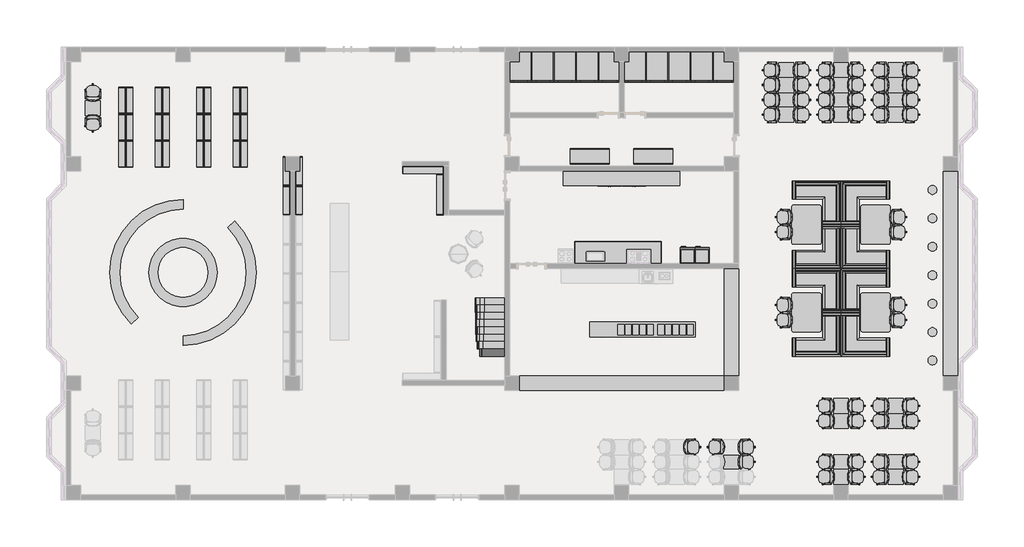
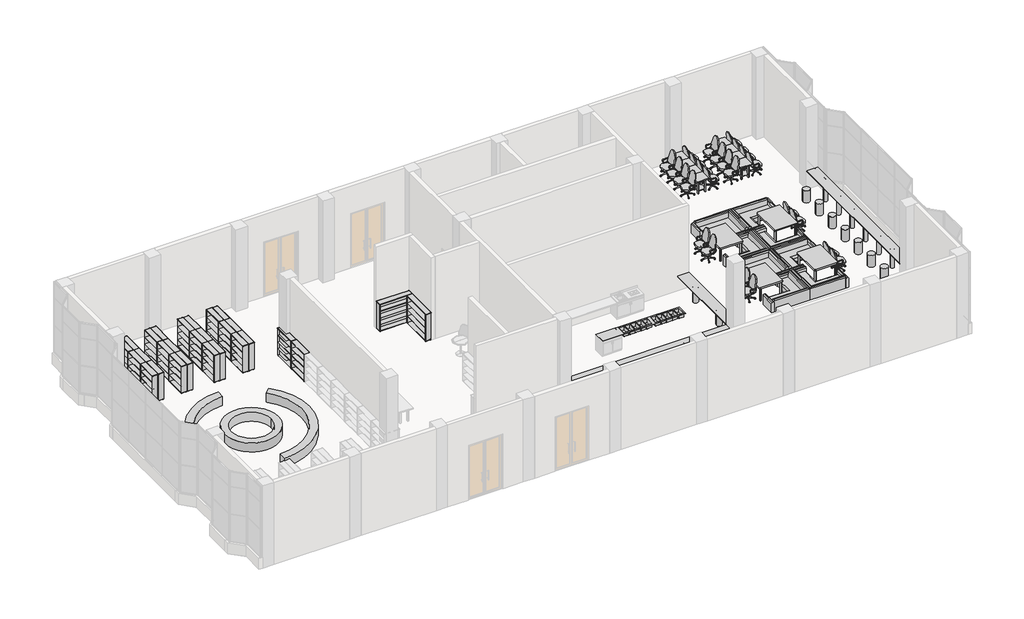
# One storey, part 6 of 6: 122 furniture elements, 18 proxies, 2 flow terminals.
"""IFC4 building model written with IfcOpenShell, lengths in millimetres."""

from ifc_helpers import new_model, si_unit, origin, place, context, project, spatial, transform, mapped, element, save
from components import generic_models_36de94e7, generic_models_38c315a2, generic_models_b0d3c842, generic_models_58798f3e, specialty_equipment_664f9cee, generic_models_272d0646, generic_models_9ddbb4ed, proxy_600_x_660mm_a466bf94, flow_terminal_45a35b00, flow_terminal_e534977b, furniture_8d69e98c, furniture_a5be4872, furniture_64f8d861, furniture_e894c18f, furniture_9b6547bb, furniture_541a6319, furniture_e67e84cc, furniture_ee37edb5, furniture_34d979e8, furniture_a32c25fb, furniture_8facce06, furniture_0610_x_0160mm_c5022f2b, furniture_0610_x_0160mm_c25b9ccd, furniture_0610_x_0610_x_0762mm_a39a3fb5, furniture_1000mm_50901d35, furniture_1000mm_db46624e

model = new_model("IFC4")

# Units and contexts
model_context = context("Model", 3, world=origin())
ifc_project = project(units=[si_unit("LENGTHUNIT", "METRE", prefix="MILLI")], contexts=[model_context])

# Site, building, storey
site = spatial("IfcSite", under=ifc_project)
building = spatial("IfcBuilding", under=site)
storey = spatial("IfcBuildingStorey", under=building, Name="标高 1", Elevation=0.0)

# Proxies
placement = place(None, origin())
generic_models_shape = generic_models_36de94e7(model_context)
element("IfcBuildingElementProxy", 1, Name="阅读区造型座位 : 阅读区造型座位", ObjectType="阅读区造型座位 : 阅读区造型座位", at=placement, inside=storey, context=model_context, shape_type="MappedRepresentation", body=[
    mapped(generic_models_shape, transform((0.0, 0.0, 0.0), x_axis=(1.0, 0.0, 0.0), y_axis=(0.0, 1.0, 0.0), z_axis=(0.0, 0.0, 1.0))),
])
generic_models_2_shape = generic_models_38c315a2(model_context)
element("IfcBuildingElementProxy", 2, Name="楼梯 安荣伟 : 楼梯 安荣伟", ObjectType="楼梯 安荣伟 : 楼梯 安荣伟", at=placement, inside=storey, context=model_context, shape_type="MappedRepresentation", body=[
    mapped(generic_models_2_shape, transform((8067.3316161, -6025.464179, 0.0), x_axis=(-1.0, 0.0, 0.0), y_axis=(0.0, -1.0, 0.0), z_axis=(0.0, 0.0, 1.0))),
])
generic_models_3_shape = generic_models_b0d3c842(model_context)
element("IfcBuildingElementProxy", 3, Name="常规模型 1 : 常规模型 1", ObjectType="常规模型 1 : 常规模型 1", at=placement, inside=storey, context=model_context, shape_type="MappedRepresentation", body=[
    mapped(generic_models_3_shape, transform((0.0, 0.0, 0.0), x_axis=(1.0, 0.0, 0.0), y_axis=(0.0, 1.0, 0.0), z_axis=(0.0, 0.0, 1.0))),
])
generic_models_4_shape = generic_models_58798f3e(model_context)
element("IfcBuildingElementProxy", 4, Name="常规模型 2 : 常规模型 2", ObjectType="常规模型 2 : 常规模型 2", at=placement, inside=storey, context=model_context, shape_type="MappedRepresentation", body=[
    mapped(generic_models_4_shape, transform((0.0, 0.0, 0.0), x_axis=(1.0, 0.0, 0.0), y_axis=(0.0, 1.0, 0.0), z_axis=(0.0, 0.0, 1.0))),
])
specialty_equipment_shape = specialty_equipment_664f9cee(model_context)
element("IfcBuildingElementProxy", 5, Name="厕所隔断 1 3D : 中间或靠墙(150 高地台)", ObjectType="厕所隔断 1 3D : 中间或靠墙(150 高地台)", at=placement, inside=storey, context=model_context, shape_type="MappedRepresentation", body=[
    mapped(specialty_equipment_shape, transform((9592.3316161, 6574.535821, 0.0), x_axis=(-1.0, 0.0, 0.0), y_axis=(0.0, -1.0, 0.0), z_axis=(0.0, 0.0, 1.0))),
])
element("IfcBuildingElementProxy", 6, Name="厕所隔断 1 3D : 中间或靠墙(150 高地台)", ObjectType="厕所隔断 1 3D : 中间或靠墙(150 高地台)", at=placement, inside=storey, context=model_context, shape_type="MappedRepresentation", body=[
    mapped(specialty_equipment_shape, transform((10507.3316161, 6574.535821, 0.0), x_axis=(-1.0, 0.0, 0.0), y_axis=(0.0, -1.0, 0.0), z_axis=(0.0, 0.0, 1.0))),
])
element("IfcBuildingElementProxy", 7, Name="厕所隔断 1 3D : 中间或靠墙(150 高地台)", ObjectType="厕所隔断 1 3D : 中间或靠墙(150 高地台)", at=placement, inside=storey, context=model_context, shape_type="MappedRepresentation", body=[
    mapped(specialty_equipment_shape, transform((11422.3316161, 6574.535821, 0.0), x_axis=(-1.0, 0.0, 0.0), y_axis=(0.0, -1.0, 0.0), z_axis=(0.0, 0.0, 1.0))),
])
element("IfcBuildingElementProxy", 8, Name="厕所隔断 1 3D : 中间或靠墙(150 高地台)", ObjectType="厕所隔断 1 3D : 中间或靠墙(150 高地台)", at=placement, inside=storey, context=model_context, shape_type="MappedRepresentation", body=[
    mapped(specialty_equipment_shape, transform((12337.3316161, 6574.535821, 0.0), x_axis=(-1.0, 0.0, 0.0), y_axis=(0.0, -1.0, 0.0), z_axis=(0.0, 0.0, 1.0))),
])
element("IfcBuildingElementProxy", 9, Name="厕所隔断 1 3D : 中间或靠墙(150 高地台)", ObjectType="厕所隔断 1 3D : 中间或靠墙(150 高地台)", at=placement, inside=storey, context=model_context, shape_type="MappedRepresentation", body=[
    mapped(specialty_equipment_shape, transform((13252.3316161, 6574.535821, 0.0), x_axis=(-1.0, 0.0, 0.0), y_axis=(0.0, -1.0, 0.0), z_axis=(0.0, 0.0, 1.0))),
])
element("IfcBuildingElementProxy", 10, Name="厕所隔断 1 3D : 中间或靠墙(150 高地台)", ObjectType="厕所隔断 1 3D : 中间或靠墙(150 高地台)", at=placement, inside=storey, context=model_context, shape_type="MappedRepresentation", body=[
    mapped(specialty_equipment_shape, transform((15207.3316161, 6574.535821, 0.0), x_axis=(-1.0, 0.0, 0.0), y_axis=(0.0, -1.0, 0.0), z_axis=(0.0, 0.0, 1.0))),
])
element("IfcBuildingElementProxy", 11, Name="厕所隔断 1 3D : 中间或靠墙(150 高地台)", ObjectType="厕所隔断 1 3D : 中间或靠墙(150 高地台)", at=placement, inside=storey, context=model_context, shape_type="MappedRepresentation", body=[
    mapped(specialty_equipment_shape, transform((16122.3316161, 6574.535821, 0.0), x_axis=(-1.0, 0.0, 0.0), y_axis=(0.0, -1.0, 0.0), z_axis=(0.0, 0.0, 1.0))),
])
element("IfcBuildingElementProxy", 12, Name="厕所隔断 1 3D : 中间或靠墙(150 高地台)", ObjectType="厕所隔断 1 3D : 中间或靠墙(150 高地台)", at=placement, inside=storey, context=model_context, shape_type="MappedRepresentation", body=[
    mapped(specialty_equipment_shape, transform((17037.3316161, 6574.535821, 0.0), x_axis=(-1.0, 0.0, 0.0), y_axis=(0.0, -1.0, 0.0), z_axis=(0.0, 0.0, 1.0))),
])
element("IfcBuildingElementProxy", 13, Name="厕所隔断 1 3D : 中间或靠墙(150 高地台)", ObjectType="厕所隔断 1 3D : 中间或靠墙(150 高地台)", at=placement, inside=storey, context=model_context, shape_type="MappedRepresentation", body=[
    mapped(specialty_equipment_shape, transform((17952.3316161, 6574.535821, 0.0), x_axis=(-1.0, 0.0, 0.0), y_axis=(0.0, -1.0, 0.0), z_axis=(0.0, 0.0, 1.0))),
])
element("IfcBuildingElementProxy", 14, Name="厕所隔断 1 3D : 中间或靠墙(150 高地台)", ObjectType="厕所隔断 1 3D : 中间或靠墙(150 高地台)", at=placement, inside=storey, context=model_context, shape_type="MappedRepresentation", body=[
    mapped(specialty_equipment_shape, transform((14292.3316161, 6574.535821, 0.0), x_axis=(-1.0, 0.0, 0.0), y_axis=(0.0, -1.0, 0.0), z_axis=(0.0, 0.0, 1.0))),
])
generic_models_5_shape = generic_models_272d0646(model_context)
element("IfcBuildingElementProxy", 15, Name="常规模型 3 : 常规模型 3", ObjectType="常规模型 3 : 常规模型 3", at=placement, inside=storey, context=model_context, shape_type="MappedRepresentation", body=[
    mapped(generic_models_5_shape, transform((0.0, 0.0, 0.0), x_axis=(1.0, 0.0, 0.0), y_axis=(0.0, 1.0, 0.0), z_axis=(0.0, 0.0, 1.0))),
])
generic_models_6_shape = generic_models_9ddbb4ed(model_context)
element("IfcBuildingElementProxy", 16, Name="常规模型 4 : 常规模型 4", ObjectType="常规模型 4 : 常规模型 4", at=placement, inside=storey, context=model_context, shape_type="MappedRepresentation", body=[
    mapped(generic_models_6_shape, transform((0.0, 0.0, 0.0), x_axis=(1.0, 0.0, 0.0), y_axis=(0.0, 1.0, 0.0), z_axis=(0.0, 0.0, 1.0))),
])
proxy_600_x_660mm_shape = proxy_600_x_660mm_a466bf94(model_context)
element("IfcBuildingElementProxy", 17, Name="电冰箱 : 600 x 660mm", ObjectType="电冰箱 : 600 x 660mm", at=placement, inside=storey, context=model_context, shape_type="MappedRepresentation", body=[
    mapped(proxy_600_x_660mm_shape, transform((17313.5304734, -1929.2490888, 0.0), x_axis=(-1.0, 0.0, 0.0), y_axis=(0.0, -1.0, 0.0), z_axis=(0.0, 0.0, 1.0))),
])
element("IfcBuildingElementProxy", 18, Name="电冰箱 : 600 x 660mm", ObjectType="电冰箱 : 600 x 660mm", at=placement, inside=storey, context=model_context, shape_type="MappedRepresentation", body=[
    mapped(proxy_600_x_660mm_shape, transform((16713.5304734, -1929.2490888, 0.0), x_axis=(-1.0, 0.0, 0.0), y_axis=(0.0, -1.0, 0.0), z_axis=(0.0, 0.0, 1.0))),
])

# Flow terminals
flow_terminal_shape = flow_terminal_45a35b00(model_context)
element("IfcFlowTerminal", 19, ObjectType="桌上式台盆_多个 : 标准", at=placement, inside=storey, context=model_context, shape_type="MappedRepresentation", body=[
    mapped(flow_terminal_shape, transform((12853.6939126, 1874.535821, 0.0), x_axis=(-1.0, 0.0, 0.0), y_axis=(0.0, -1.0, 0.0), z_axis=(0.0, 0.0, 1.0))),
])
flow_terminal_2_shape = flow_terminal_e534977b(model_context)
element("IfcFlowTerminal", 20, ObjectType="桌上式台盆_多个 : 标准", at=placement, inside=storey, context=model_context, shape_type="MappedRepresentation", body=[
    mapped(flow_terminal_2_shape, transform((15280.9693195, 1874.535821, 0.0), x_axis=(1.0, 0.0, 0.0), y_axis=(0.0, 1.0, 0.0), z_axis=(0.0, 0.0, 1.0))),
])

# Furniture
furniture_shape = furniture_8d69e98c(model_context)
element("IfcFurniture", 21, ObjectType="转椅12 : 转椅12", at=placement, inside=storey, context=model_context, shape_type="MappedRepresentation", body=[
    mapped(furniture_shape, transform((-7773.6592036, 4795.5899193, 0.0), x_axis=(1.0, 0.0, 0.0), y_axis=(0.0, 1.0, 0.0), z_axis=(0.0, 0.0, 1.0))),
])
element("IfcFurniture", 22, ObjectType="转椅12 : 转椅12", at=placement, inside=storey, context=model_context, shape_type="MappedRepresentation", body=[
    mapped(furniture_shape, transform((17941.2775177, -9898.8958267, 0.0), x_axis=(0.0, 1.0, 0.0), y_axis=(-1.0, 0.0, 0.0), z_axis=(0.0, 0.0, 1.0))),
])
element("IfcFurniture", 23, ObjectType="转椅12 : 转椅12", at=placement, inside=storey, context=model_context, shape_type="MappedRepresentation", body=[
    mapped(furniture_shape, transform((24681.2775177, -10508.8958267, 0.0), x_axis=(0.0, 1.0, 0.0), y_axis=(-1.0, 0.0, 0.0), z_axis=(0.0, 0.0, 1.0))),
])
element("IfcFurniture", 24, ObjectType="转椅12 : 转椅12", at=placement, inside=storey, context=model_context, shape_type="MappedRepresentation", body=[
    mapped(furniture_shape, transform((24681.2775177, -11118.8958267, 0.0), x_axis=(0.0, 1.0, 0.0), y_axis=(-1.0, 0.0, 0.0), z_axis=(0.0, 0.0, 1.0))),
])
element("IfcFurniture", 25, ObjectType="转椅12 : 转椅12", at=placement, inside=storey, context=model_context, shape_type="MappedRepresentation", body=[
    mapped(furniture_shape, transform((22441.2775177, -10508.8958267, 0.0), x_axis=(0.0, 1.0, 0.0), y_axis=(-1.0, 0.0, 0.0), z_axis=(0.0, 0.0, 1.0))),
])
element("IfcFurniture", 26, ObjectType="转椅12 : 转椅12", at=placement, inside=storey, context=model_context, shape_type="MappedRepresentation", body=[
    mapped(furniture_shape, transform((22441.2775177, -11118.8958267, 0.0), x_axis=(0.0, 1.0, 0.0), y_axis=(-1.0, 0.0, 0.0), z_axis=(0.0, 0.0, 1.0))),
])
element("IfcFurniture", 27, ObjectType="转椅12 : 转椅12", at=placement, inside=storey, context=model_context, shape_type="MappedRepresentation", body=[
    mapped(furniture_shape, transform((24681.2775177, -8208.8958267, 0.0), x_axis=(0.0, 1.0, 0.0), y_axis=(-1.0, 0.0, 0.0), z_axis=(0.0, 0.0, 1.0))),
])
element("IfcFurniture", 28, ObjectType="转椅12 : 转椅12", at=placement, inside=storey, context=model_context, shape_type="MappedRepresentation", body=[
    mapped(furniture_shape, transform((24681.2775177, -8818.8958267, 0.0), x_axis=(0.0, 1.0, 0.0), y_axis=(-1.0, 0.0, 0.0), z_axis=(0.0, 0.0, 1.0))),
])
element("IfcFurniture", 29, ObjectType="转椅12 : 转椅12", at=placement, inside=storey, context=model_context, shape_type="MappedRepresentation", body=[
    mapped(furniture_shape, transform((22441.2775177, -8208.8958267, 0.0), x_axis=(0.0, 1.0, 0.0), y_axis=(-1.0, 0.0, 0.0), z_axis=(0.0, 0.0, 1.0))),
])
element("IfcFurniture", 30, ObjectType="转椅12 : 转椅12", at=placement, inside=storey, context=model_context, shape_type="MappedRepresentation", body=[
    mapped(furniture_shape, transform((22441.2775177, -8818.8958267, 0.0), x_axis=(0.0, 1.0, 0.0), y_axis=(-1.0, 0.0, 0.0), z_axis=(0.0, 0.0, 1.0))),
])
element("IfcFurniture", 31, ObjectType="转椅12 : 转椅12", at=placement, inside=storey, context=model_context, shape_type="MappedRepresentation", body=[
    mapped(furniture_shape, transform((24681.2775177, 5583.5450013, 0.0), x_axis=(0.0, 1.0, 0.0), y_axis=(-1.0, 0.0, 0.0), z_axis=(0.0, 0.0, 1.0))),
])
element("IfcFurniture", 32, ObjectType="转椅12 : 转椅12", at=placement, inside=storey, context=model_context, shape_type="MappedRepresentation", body=[
    mapped(furniture_shape, transform((24681.2775177, 4973.5450013, 0.0), x_axis=(0.0, 1.0, 0.0), y_axis=(-1.0, 0.0, 0.0), z_axis=(0.0, 0.0, 1.0))),
])
element("IfcFurniture", 33, ObjectType="转椅12 : 转椅12", at=placement, inside=storey, context=model_context, shape_type="MappedRepresentation", body=[
    mapped(furniture_shape, transform((22441.2775177, 5583.5450013, 0.0), x_axis=(0.0, 1.0, 0.0), y_axis=(-1.0, 0.0, 0.0), z_axis=(0.0, 0.0, 1.0))),
])
element("IfcFurniture", 34, ObjectType="转椅12 : 转椅12", at=placement, inside=storey, context=model_context, shape_type="MappedRepresentation", body=[
    mapped(furniture_shape, transform((22441.2775177, 4973.5450013, 0.0), x_axis=(0.0, 1.0, 0.0), y_axis=(-1.0, 0.0, 0.0), z_axis=(0.0, 0.0, 1.0))),
])
element("IfcFurniture", 35, ObjectType="转椅12 : 转椅12", at=placement, inside=storey, context=model_context, shape_type="MappedRepresentation", body=[
    mapped(furniture_shape, transform((24681.2775177, 4363.5450013, 0.0), x_axis=(0.0, 1.0, 0.0), y_axis=(-1.0, 0.0, 0.0), z_axis=(0.0, 0.0, 1.0))),
])
element("IfcFurniture", 36, ObjectType="转椅12 : 转椅12", at=placement, inside=storey, context=model_context, shape_type="MappedRepresentation", body=[
    mapped(furniture_shape, transform((24681.2775177, 3753.5450013, 0.0), x_axis=(0.0, 1.0, 0.0), y_axis=(-1.0, 0.0, 0.0), z_axis=(0.0, 0.0, 1.0))),
])
element("IfcFurniture", 37, ObjectType="转椅12 : 转椅12", at=placement, inside=storey, context=model_context, shape_type="MappedRepresentation", body=[
    mapped(furniture_shape, transform((22441.2775177, 4363.5450013, 0.0), x_axis=(0.0, 1.0, 0.0), y_axis=(-1.0, 0.0, 0.0), z_axis=(0.0, 0.0, 1.0))),
])
element("IfcFurniture", 38, ObjectType="转椅12 : 转椅12", at=placement, inside=storey, context=model_context, shape_type="MappedRepresentation", body=[
    mapped(furniture_shape, transform((22441.2775177, 3753.5450013, 0.0), x_axis=(0.0, 1.0, 0.0), y_axis=(-1.0, 0.0, 0.0), z_axis=(0.0, 0.0, 1.0))),
])
element("IfcFurniture", 39, ObjectType="转椅12 : 转椅12", at=placement, inside=storey, context=model_context, shape_type="MappedRepresentation", body=[
    mapped(furniture_shape, transform((20201.2775177, 5583.5450013, 0.0), x_axis=(0.0, 1.0, 0.0), y_axis=(-1.0, 0.0, 0.0), z_axis=(0.0, 0.0, 1.0))),
])
element("IfcFurniture", 40, ObjectType="转椅12 : 转椅12", at=placement, inside=storey, context=model_context, shape_type="MappedRepresentation", body=[
    mapped(furniture_shape, transform((20201.2775177, 4973.5450013, 0.0), x_axis=(0.0, 1.0, 0.0), y_axis=(-1.0, 0.0, 0.0), z_axis=(0.0, 0.0, 1.0))),
])
element("IfcFurniture", 41, ObjectType="转椅12 : 转椅12", at=placement, inside=storey, context=model_context, shape_type="MappedRepresentation", body=[
    mapped(furniture_shape, transform((20201.2775177, 4363.5450013, 0.0), x_axis=(0.0, 1.0, 0.0), y_axis=(-1.0, 0.0, 0.0), z_axis=(0.0, 0.0, 1.0))),
])
element("IfcFurniture", 42, ObjectType="转椅12 : 转椅12", at=placement, inside=storey, context=model_context, shape_type="MappedRepresentation", body=[
    mapped(furniture_shape, transform((20201.2775177, 3753.5450013, 0.0), x_axis=(0.0, 1.0, 0.0), y_axis=(-1.0, 0.0, 0.0), z_axis=(0.0, 0.0, 1.0))),
])
element("IfcFurniture", 43, ObjectType="转椅12 : 转椅12", at=placement, inside=storey, context=model_context, shape_type="MappedRepresentation", body=[
    mapped(furniture_shape, transform((20726.2775177, -456.4549987, 0.0), x_axis=(0.0, 1.0, 0.0), y_axis=(-1.0, 0.0, 0.0), z_axis=(0.0, 0.0, 1.0))),
])
element("IfcFurniture", 44, ObjectType="转椅12 : 转椅12", at=placement, inside=storey, context=model_context, shape_type="MappedRepresentation", body=[
    mapped(furniture_shape, transform((20726.2775177, -1066.4549987, 0.0), x_axis=(0.0, 1.0, 0.0), y_axis=(-1.0, 0.0, 0.0), z_axis=(0.0, 0.0, 1.0))),
])
element("IfcFurniture", 45, ObjectType="转椅12 : 转椅12", at=placement, inside=storey, context=model_context, shape_type="MappedRepresentation", body=[
    mapped(furniture_shape, transform((25408.3857144, -4394.4733593, 0.0), x_axis=(0.0, -1.0, 0.0), y_axis=(1.0, 0.0, 0.0), z_axis=(0.0, 0.0, 1.0))),
])
element("IfcFurniture", 46, ObjectType="转椅12 : 转椅12", at=placement, inside=storey, context=model_context, shape_type="MappedRepresentation", body=[
    mapped(furniture_shape, transform((25408.3857144, -3784.4733593, 0.0), x_axis=(0.0, -1.0, 0.0), y_axis=(1.0, 0.0, 0.0), z_axis=(0.0, 0.0, 1.0))),
])
furniture_2_shape = furniture_a5be4872(model_context)
element("IfcFurniture", 47, ObjectType="转椅12 : 转椅12", at=placement, inside=storey, context=model_context, shape_type="MappedRepresentation", body=[
    mapped(furniture_2_shape, transform((-7773.6592036, 3543.4817226, 0.0), x_axis=(1.0, 0.0, 0.0), y_axis=(0.0, 1.0, 0.0), z_axis=(0.0, 0.0, 1.0))),
])
element("IfcFurniture", 48, ObjectType="转椅12 : 转椅12", at=placement, inside=storey, context=model_context, shape_type="MappedRepresentation", body=[
    mapped(furniture_2_shape, transform((19193.3857144, -9898.8958267, 0.0), x_axis=(0.0, 1.0, 0.0), y_axis=(-1.0, 0.0, 0.0), z_axis=(0.0, 0.0, 1.0))),
])
element("IfcFurniture", 49, ObjectType="转椅12 : 转椅12", at=placement, inside=storey, context=model_context, shape_type="MappedRepresentation", body=[
    mapped(furniture_2_shape, transform((19193.3857144, -10508.8958267, 0.0), x_axis=(0.0, 1.0, 0.0), y_axis=(-1.0, 0.0, 0.0), z_axis=(0.0, 0.0, 1.0))),
])
element("IfcFurniture", 50, ObjectType="转椅12 : 转椅12", at=placement, inside=storey, context=model_context, shape_type="MappedRepresentation", body=[
    mapped(furniture_2_shape, transform((16953.3857144, -9898.8958267, 0.0), x_axis=(0.0, 1.0, 0.0), y_axis=(-1.0, 0.0, 0.0), z_axis=(0.0, 0.0, 1.0))),
])
element("IfcFurniture", 51, ObjectType="转椅12 : 转椅12", at=placement, inside=storey, context=model_context, shape_type="MappedRepresentation", body=[
    mapped(furniture_2_shape, transform((25933.3857144, -10508.8958267, 0.0), x_axis=(0.0, 1.0, 0.0), y_axis=(-1.0, 0.0, 0.0), z_axis=(0.0, 0.0, 1.0))),
])
element("IfcFurniture", 52, ObjectType="转椅12 : 转椅12", at=placement, inside=storey, context=model_context, shape_type="MappedRepresentation", body=[
    mapped(furniture_2_shape, transform((25933.3857144, -11118.8958267, 0.0), x_axis=(0.0, 1.0, 0.0), y_axis=(-1.0, 0.0, 0.0), z_axis=(0.0, 0.0, 1.0))),
])
element("IfcFurniture", 53, ObjectType="转椅12 : 转椅12", at=placement, inside=storey, context=model_context, shape_type="MappedRepresentation", body=[
    mapped(furniture_2_shape, transform((23693.3857144, -10508.8958267, 0.0), x_axis=(0.0, 1.0, 0.0), y_axis=(-1.0, 0.0, 0.0), z_axis=(0.0, 0.0, 1.0))),
])
element("IfcFurniture", 54, ObjectType="转椅12 : 转椅12", at=placement, inside=storey, context=model_context, shape_type="MappedRepresentation", body=[
    mapped(furniture_2_shape, transform((23693.3857144, -11118.8958267, 0.0), x_axis=(0.0, 1.0, 0.0), y_axis=(-1.0, 0.0, 0.0), z_axis=(0.0, 0.0, 1.0))),
])
element("IfcFurniture", 55, ObjectType="转椅12 : 转椅12", at=placement, inside=storey, context=model_context, shape_type="MappedRepresentation", body=[
    mapped(furniture_2_shape, transform((25933.3857144, -8208.8958267, 0.0), x_axis=(0.0, 1.0, 0.0), y_axis=(-1.0, 0.0, 0.0), z_axis=(0.0, 0.0, 1.0))),
])
element("IfcFurniture", 56, ObjectType="转椅12 : 转椅12", at=placement, inside=storey, context=model_context, shape_type="MappedRepresentation", body=[
    mapped(furniture_2_shape, transform((25933.3857144, -8818.8958267, 0.0), x_axis=(0.0, 1.0, 0.0), y_axis=(-1.0, 0.0, 0.0), z_axis=(0.0, 0.0, 1.0))),
])
element("IfcFurniture", 57, ObjectType="转椅12 : 转椅12", at=placement, inside=storey, context=model_context, shape_type="MappedRepresentation", body=[
    mapped(furniture_2_shape, transform((23693.3857144, -8208.8958267, 0.0), x_axis=(0.0, 1.0, 0.0), y_axis=(-1.0, 0.0, 0.0), z_axis=(0.0, 0.0, 1.0))),
])
element("IfcFurniture", 58, ObjectType="转椅12 : 转椅12", at=placement, inside=storey, context=model_context, shape_type="MappedRepresentation", body=[
    mapped(furniture_2_shape, transform((23693.3857144, -8818.8958267, 0.0), x_axis=(0.0, 1.0, 0.0), y_axis=(-1.0, 0.0, 0.0), z_axis=(0.0, 0.0, 1.0))),
])
element("IfcFurniture", 59, ObjectType="转椅12 : 转椅12", at=placement, inside=storey, context=model_context, shape_type="MappedRepresentation", body=[
    mapped(furniture_2_shape, transform((25933.3857144, 5583.5450013, 0.0), x_axis=(0.0, 1.0, 0.0), y_axis=(-1.0, 0.0, 0.0), z_axis=(0.0, 0.0, 1.0))),
])
element("IfcFurniture", 60, ObjectType="转椅12 : 转椅12", at=placement, inside=storey, context=model_context, shape_type="MappedRepresentation", body=[
    mapped(furniture_2_shape, transform((25933.3857144, 4973.5450013, 0.0), x_axis=(0.0, 1.0, 0.0), y_axis=(-1.0, 0.0, 0.0), z_axis=(0.0, 0.0, 1.0))),
])
element("IfcFurniture", 61, ObjectType="转椅12 : 转椅12", at=placement, inside=storey, context=model_context, shape_type="MappedRepresentation", body=[
    mapped(furniture_2_shape, transform((23693.3857144, 5583.5450013, 0.0), x_axis=(0.0, 1.0, 0.0), y_axis=(-1.0, 0.0, 0.0), z_axis=(0.0, 0.0, 1.0))),
])
element("IfcFurniture", 62, ObjectType="转椅12 : 转椅12", at=placement, inside=storey, context=model_context, shape_type="MappedRepresentation", body=[
    mapped(furniture_2_shape, transform((23693.3857144, 4973.5450013, 0.0), x_axis=(0.0, 1.0, 0.0), y_axis=(-1.0, 0.0, 0.0), z_axis=(0.0, 0.0, 1.0))),
])
element("IfcFurniture", 63, ObjectType="转椅12 : 转椅12", at=placement, inside=storey, context=model_context, shape_type="MappedRepresentation", body=[
    mapped(furniture_2_shape, transform((25933.3857144, 4363.5450013, 0.0), x_axis=(0.0, 1.0, 0.0), y_axis=(-1.0, 0.0, 0.0), z_axis=(0.0, 0.0, 1.0))),
])
element("IfcFurniture", 64, ObjectType="转椅12 : 转椅12", at=placement, inside=storey, context=model_context, shape_type="MappedRepresentation", body=[
    mapped(furniture_2_shape, transform((25933.3857144, 3753.5450013, 0.0), x_axis=(0.0, 1.0, 0.0), y_axis=(-1.0, 0.0, 0.0), z_axis=(0.0, 0.0, 1.0))),
])
element("IfcFurniture", 65, ObjectType="转椅12 : 转椅12", at=placement, inside=storey, context=model_context, shape_type="MappedRepresentation", body=[
    mapped(furniture_2_shape, transform((23693.3857144, 4363.5450013, 0.0), x_axis=(0.0, 1.0, 0.0), y_axis=(-1.0, 0.0, 0.0), z_axis=(0.0, 0.0, 1.0))),
])
element("IfcFurniture", 66, ObjectType="转椅12 : 转椅12", at=placement, inside=storey, context=model_context, shape_type="MappedRepresentation", body=[
    mapped(furniture_2_shape, transform((23693.3857144, 3753.5450013, 0.0), x_axis=(0.0, 1.0, 0.0), y_axis=(-1.0, 0.0, 0.0), z_axis=(0.0, 0.0, 1.0))),
])
element("IfcFurniture", 67, ObjectType="转椅12 : 转椅12", at=placement, inside=storey, context=model_context, shape_type="MappedRepresentation", body=[
    mapped(furniture_2_shape, transform((21453.3857144, 5583.5450013, 0.0), x_axis=(0.0, 1.0, 0.0), y_axis=(-1.0, 0.0, 0.0), z_axis=(0.0, 0.0, 1.0))),
])
element("IfcFurniture", 68, ObjectType="转椅12 : 转椅12", at=placement, inside=storey, context=model_context, shape_type="MappedRepresentation", body=[
    mapped(furniture_2_shape, transform((21453.3857144, 4973.5450013, 0.0), x_axis=(0.0, 1.0, 0.0), y_axis=(-1.0, 0.0, 0.0), z_axis=(0.0, 0.0, 1.0))),
])
element("IfcFurniture", 69, ObjectType="转椅12 : 转椅12", at=placement, inside=storey, context=model_context, shape_type="MappedRepresentation", body=[
    mapped(furniture_2_shape, transform((21453.3857144, 4363.5450013, 0.0), x_axis=(0.0, 1.0, 0.0), y_axis=(-1.0, 0.0, 0.0), z_axis=(0.0, 0.0, 1.0))),
])
element("IfcFurniture", 70, ObjectType="转椅12 : 转椅12", at=placement, inside=storey, context=model_context, shape_type="MappedRepresentation", body=[
    mapped(furniture_2_shape, transform((21453.3857144, 3753.5450013, 0.0), x_axis=(0.0, 1.0, 0.0), y_axis=(-1.0, 0.0, 0.0), z_axis=(0.0, 0.0, 1.0))),
])
element("IfcFurniture", 71, ObjectType="转椅12 : 转椅12", at=placement, inside=storey, context=model_context, shape_type="MappedRepresentation", body=[
    mapped(furniture_2_shape, transform((25408.3857144, -456.4549987, 0.0), x_axis=(0.0, 1.0, 0.0), y_axis=(-1.0, 0.0, 0.0), z_axis=(0.0, 0.0, 1.0))),
])
element("IfcFurniture", 72, ObjectType="转椅12 : 转椅12", at=placement, inside=storey, context=model_context, shape_type="MappedRepresentation", body=[
    mapped(furniture_2_shape, transform((25408.3857144, -1066.4549987, 0.0), x_axis=(0.0, 1.0, 0.0), y_axis=(-1.0, 0.0, 0.0), z_axis=(0.0, 0.0, 1.0))),
])
element("IfcFurniture", 73, ObjectType="转椅12 : 转椅12", at=placement, inside=storey, context=model_context, shape_type="MappedRepresentation", body=[
    mapped(furniture_2_shape, transform((20726.2775177, -4394.4733593, 0.0), x_axis=(0.0, -1.0, 0.0), y_axis=(1.0, 0.0, 0.0), z_axis=(0.0, 0.0, 1.0))),
])
element("IfcFurniture", 74, ObjectType="转椅12 : 转椅12", at=placement, inside=storey, context=model_context, shape_type="MappedRepresentation", body=[
    mapped(furniture_2_shape, transform((20726.2775177, -3784.4733593, 0.0), x_axis=(0.0, -1.0, 0.0), y_axis=(1.0, 0.0, 0.0), z_axis=(0.0, 0.0, 1.0))),
])
furniture_3_shape = furniture_64f8d861(model_context)
element("IfcFurniture", 75, ObjectType="书柜7 : W800*D419*H1515mm", at=placement, inside=storey, context=model_context, shape_type="MappedRepresentation", body=[
    mapped(furniture_3_shape, transform((-6104.6683839, 4474.535821, 0.0), x_axis=(0.0, 0.9999999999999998, 0.0), y_axis=(-0.9999999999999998, 0.0, 0.0), z_axis=(0.0, 0.0, 1.0))),
])
element("IfcFurniture", 76, ObjectType="书柜7 : W800*D419*H1515mm", at=placement, inside=storey, context=model_context, shape_type="MappedRepresentation", body=[
    mapped(furniture_3_shape, transform((-6104.6683839, 3374.4958658, 0.0), x_axis=(0.0, 0.9999999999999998, 0.0), y_axis=(-0.9999999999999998, 0.0, 0.0), z_axis=(0.0, 0.0, 1.0))),
])
element("IfcFurniture", 77, ObjectType="书柜7 : W800*D419*H1515mm", at=placement, inside=storey, context=model_context, shape_type="MappedRepresentation", body=[
    mapped(furniture_3_shape, transform((-6104.6683839, 2274.4559107, 0.0), x_axis=(0.0, 0.9999999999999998, 0.0), y_axis=(-0.9999999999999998, 0.0, 0.0), z_axis=(0.0, 0.0, 1.0))),
])
element("IfcFurniture", 78, ObjectType="书柜7 : W800*D419*H1515mm", at=placement, inside=storey, context=model_context, shape_type="MappedRepresentation", body=[
    mapped(furniture_3_shape, transform((-4604.6683839, 4474.535821, 0.0), x_axis=(0.0, 0.9999999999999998, 0.0), y_axis=(-0.9999999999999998, 0.0, 0.0), z_axis=(0.0, 0.0, 1.0))),
])
element("IfcFurniture", 79, ObjectType="书柜7 : W800*D419*H1515mm", at=placement, inside=storey, context=model_context, shape_type="MappedRepresentation", body=[
    mapped(furniture_3_shape, transform((-4604.6683839, 3374.4958658, 0.0), x_axis=(0.0, 0.9999999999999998, 0.0), y_axis=(-0.9999999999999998, 0.0, 0.0), z_axis=(0.0, 0.0, 1.0))),
])
element("IfcFurniture", 80, ObjectType="书柜7 : W800*D419*H1515mm", at=placement, inside=storey, context=model_context, shape_type="MappedRepresentation", body=[
    mapped(furniture_3_shape, transform((-4604.6683839, 2274.4559107, 0.0), x_axis=(0.0, 0.9999999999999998, 0.0), y_axis=(-0.9999999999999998, 0.0, 0.0), z_axis=(0.0, 0.0, 1.0))),
])
element("IfcFurniture", 81, ObjectType="书柜7 : W800*D419*H1515mm", at=placement, inside=storey, context=model_context, shape_type="MappedRepresentation", body=[
    mapped(furniture_3_shape, transform((-1404.6683839, 4474.535821, 0.0), x_axis=(0.0, 0.9999999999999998, 0.0), y_axis=(-0.9999999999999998, 0.0, 0.0), z_axis=(0.0, 0.0, 1.0))),
])
element("IfcFurniture", 82, ObjectType="书柜7 : W800*D419*H1515mm", at=placement, inside=storey, context=model_context, shape_type="MappedRepresentation", body=[
    mapped(furniture_3_shape, transform((-1404.6683839, 3374.4958658, 0.0), x_axis=(0.0, 0.9999999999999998, 0.0), y_axis=(-0.9999999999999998, 0.0, 0.0), z_axis=(0.0, 0.0, 1.0))),
])
element("IfcFurniture", 83, ObjectType="书柜7 : W800*D419*H1515mm", at=placement, inside=storey, context=model_context, shape_type="MappedRepresentation", body=[
    mapped(furniture_3_shape, transform((-1404.6683839, 2274.4559107, 0.0), x_axis=(0.0, 0.9999999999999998, 0.0), y_axis=(-0.9999999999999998, 0.0, 0.0), z_axis=(0.0, 0.0, 1.0))),
])
element("IfcFurniture", 84, ObjectType="书柜7 : W800*D419*H1515mm", at=placement, inside=storey, context=model_context, shape_type="MappedRepresentation", body=[
    mapped(furniture_3_shape, transform((-2904.6683839, 4474.535821, 0.0), x_axis=(0.0, 0.9999999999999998, 0.0), y_axis=(-0.9999999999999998, 0.0, 0.0), z_axis=(0.0, 0.0, 1.0))),
])
element("IfcFurniture", 85, ObjectType="书柜7 : W800*D419*H1515mm", at=placement, inside=storey, context=model_context, shape_type="MappedRepresentation", body=[
    mapped(furniture_3_shape, transform((-2904.6683839, 3374.4958658, 0.0), x_axis=(0.0, 0.9999999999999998, 0.0), y_axis=(-0.9999999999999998, 0.0, 0.0), z_axis=(0.0, 0.0, 1.0))),
])
element("IfcFurniture", 86, ObjectType="书柜7 : W800*D419*H1515mm", at=placement, inside=storey, context=model_context, shape_type="MappedRepresentation", body=[
    mapped(furniture_3_shape, transform((-2904.6683839, 2274.4559107, 0.0), x_axis=(0.0, 0.9999999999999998, 0.0), y_axis=(-0.9999999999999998, 0.0, 0.0), z_axis=(0.0, 0.0, 1.0))),
])
furniture_4_shape = furniture_e894c18f(model_context)
element("IfcFurniture", 87, ObjectType="书柜7 : W800*D419*H1515mm", at=placement, inside=storey, context=model_context, shape_type="MappedRepresentation", body=[
    mapped(furniture_4_shape, transform((-6460.6683839, 4474.535821, 0.0), x_axis=(0.0, 0.9999999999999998, 0.0), y_axis=(-0.9999999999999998, 0.0, 0.0), z_axis=(0.0, 0.0, 1.0))),
])
element("IfcFurniture", 88, ObjectType="书柜7 : W800*D419*H1515mm", at=placement, inside=storey, context=model_context, shape_type="MappedRepresentation", body=[
    mapped(furniture_4_shape, transform((-6460.6683839, 3374.4958658, 0.0), x_axis=(0.0, 0.9999999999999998, 0.0), y_axis=(-0.9999999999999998, 0.0, 0.0), z_axis=(0.0, 0.0, 1.0))),
])
element("IfcFurniture", 89, ObjectType="书柜7 : W800*D419*H1515mm", at=placement, inside=storey, context=model_context, shape_type="MappedRepresentation", body=[
    mapped(furniture_4_shape, transform((-6460.6683839, 2274.4559107, 0.0), x_axis=(0.0, 0.9999999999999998, 0.0), y_axis=(-0.9999999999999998, 0.0, 0.0), z_axis=(0.0, 0.0, 1.0))),
])
element("IfcFurniture", 90, ObjectType="书柜7 : W800*D419*H1515mm", at=placement, inside=storey, context=model_context, shape_type="MappedRepresentation", body=[
    mapped(furniture_4_shape, transform((-4960.6683839, 4474.535821, 0.0), x_axis=(0.0, 0.9999999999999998, 0.0), y_axis=(-0.9999999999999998, 0.0, 0.0), z_axis=(0.0, 0.0, 1.0))),
])
element("IfcFurniture", 91, ObjectType="书柜7 : W800*D419*H1515mm", at=placement, inside=storey, context=model_context, shape_type="MappedRepresentation", body=[
    mapped(furniture_4_shape, transform((-4960.6683839, 3374.4958658, 0.0), x_axis=(0.0, 0.9999999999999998, 0.0), y_axis=(-0.9999999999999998, 0.0, 0.0), z_axis=(0.0, 0.0, 1.0))),
])
element("IfcFurniture", 92, ObjectType="书柜7 : W800*D419*H1515mm", at=placement, inside=storey, context=model_context, shape_type="MappedRepresentation", body=[
    mapped(furniture_4_shape, transform((-4960.6683839, 2274.4559107, 0.0), x_axis=(0.0, 0.9999999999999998, 0.0), y_axis=(-0.9999999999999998, 0.0, 0.0), z_axis=(0.0, 0.0, 1.0))),
])
element("IfcFurniture", 93, ObjectType="书柜7 : W800*D419*H1515mm", at=placement, inside=storey, context=model_context, shape_type="MappedRepresentation", body=[
    mapped(furniture_4_shape, transform((-1760.6683839, 4474.535821, 0.0), x_axis=(0.0, 0.9999999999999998, 0.0), y_axis=(-0.9999999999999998, 0.0, 0.0), z_axis=(0.0, 0.0, 1.0))),
])
element("IfcFurniture", 94, ObjectType="书柜7 : W800*D419*H1515mm", at=placement, inside=storey, context=model_context, shape_type="MappedRepresentation", body=[
    mapped(furniture_4_shape, transform((-1760.6683839, 3374.4958658, 0.0), x_axis=(0.0, 0.9999999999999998, 0.0), y_axis=(-0.9999999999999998, 0.0, 0.0), z_axis=(0.0, 0.0, 1.0))),
])
element("IfcFurniture", 95, ObjectType="书柜7 : W800*D419*H1515mm", at=placement, inside=storey, context=model_context, shape_type="MappedRepresentation", body=[
    mapped(furniture_4_shape, transform((-1760.6683839, 2274.4559107, 0.0), x_axis=(0.0, 0.9999999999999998, 0.0), y_axis=(-0.9999999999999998, 0.0, 0.0), z_axis=(0.0, 0.0, 1.0))),
])
element("IfcFurniture", 96, ObjectType="书柜7 : W800*D419*H1515mm", at=placement, inside=storey, context=model_context, shape_type="MappedRepresentation", body=[
    mapped(furniture_4_shape, transform((-3260.6683839, 4474.535821, 0.0), x_axis=(0.0, 0.9999999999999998, 0.0), y_axis=(-0.9999999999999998, 0.0, 0.0), z_axis=(0.0, 0.0, 1.0))),
])
element("IfcFurniture", 97, ObjectType="书柜7 : W800*D419*H1515mm", at=placement, inside=storey, context=model_context, shape_type="MappedRepresentation", body=[
    mapped(furniture_4_shape, transform((-3260.6683839, 3374.4958658, 0.0), x_axis=(0.0, 0.9999999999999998, 0.0), y_axis=(-0.9999999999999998, 0.0, 0.0), z_axis=(0.0, 0.0, 1.0))),
])
element("IfcFurniture", 98, ObjectType="书柜7 : W800*D419*H1515mm", at=placement, inside=storey, context=model_context, shape_type="MappedRepresentation", body=[
    mapped(furniture_4_shape, transform((-3260.6683839, 2274.4559107, 0.0), x_axis=(0.0, 0.9999999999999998, 0.0), y_axis=(-0.9999999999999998, 0.0, 0.0), z_axis=(0.0, 0.0, 1.0))),
])
furniture_5_shape = furniture_9b6547bb(model_context)
element("IfcFurniture", 99, ObjectType="书柜7 : W800*D419*H1515mm 2", at=placement, inside=storey, context=model_context, shape_type="MappedRepresentation", body=[
    mapped(furniture_5_shape, transform((845.2904818, 1574.535821, 0.0), x_axis=(0.0, 0.9999999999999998, 0.0), y_axis=(-0.9999999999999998, 0.0, 0.0), z_axis=(0.0, 0.0, 1.0))),
])
element("IfcFurniture", 100, ObjectType="书柜7 : W800*D419*H1515mm 2", at=placement, inside=storey, context=model_context, shape_type="MappedRepresentation", body=[
    mapped(furniture_5_shape, transform((845.2904818, 374.4958658, 0.0), x_axis=(0.0, 1.0, 0.0), y_axis=(-1.0, 0.0, 0.0), z_axis=(0.0, 0.0, 1.0))),
])
furniture_6_shape = furniture_541a6319(model_context)
element("IfcFurniture", 101, ObjectType="书柜7 : W800*D419*H1515mm 2", at=placement, inside=storey, context=model_context, shape_type="MappedRepresentation", body=[
    mapped(furniture_6_shape, transform((289.3727503, 1574.535821, 0.0), x_axis=(0.0, 0.9999999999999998, 0.0), y_axis=(-0.9999999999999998, 0.0, 0.0), z_axis=(0.0, 0.0, 1.0))),
])
element("IfcFurniture", 102, ObjectType="书柜7 : W800*D419*H1515mm 2", at=placement, inside=storey, context=model_context, shape_type="MappedRepresentation", body=[
    mapped(furniture_6_shape, transform((289.3727503, 374.4958658, 0.0), x_axis=(0.0, 1.0, 0.0), y_axis=(-1.0, 0.0, 0.0), z_axis=(0.0, 0.0, 1.0))),
])
furniture_7_shape = furniture_e67e84cc(model_context)
element("IfcFurniture", 103, ObjectType="书柜7 : W800*D419*H1515mm 3", at=placement, inside=storey, context=model_context, shape_type="MappedRepresentation", body=[
    mapped(furniture_7_shape, transform((5917.3316161, 1593.4946868, 0.0), x_axis=(-0.9999999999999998, 0.0, 0.0), y_axis=(0.0, -0.9999999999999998, 0.0), z_axis=(0.0, 0.0, 1.0))),
])
element("IfcFurniture", 104, ObjectType="书柜7 : W800*D419*H1515mm 3", at=placement, inside=storey, context=model_context, shape_type="MappedRepresentation", body=[
    mapped(furniture_7_shape, transform((6589.330437, 618.4946868, 0.0), x_axis=(0.0, 1.0, 0.0), y_axis=(-1.0, 0.0, 0.0), z_axis=(0.0, 0.0, 1.0))),
])
furniture_8_shape = furniture_ee37edb5(model_context)
element("IfcFurniture", 105, ObjectType="L 型长沙发 : W1800*D1800", at=placement, inside=storey, context=model_context, shape_type="MappedRepresentation", body=[
    mapped(furniture_8_shape, transform((22067.3316161, 274.535821, 0.0), x_axis=(0.0, -1.0, 0.0), y_axis=(1.0, 0.0, 0.0), z_axis=(0.0, 0.0, 1.0))),
])
element("IfcFurniture", 106, ObjectType="L 型长沙发 : W1800*D1800", at=placement, inside=storey, context=model_context, shape_type="MappedRepresentation", body=[
    mapped(furniture_8_shape, transform((24067.3316161, -1525.464179, 0.0), x_axis=(0.0, 1.0, 0.0), y_axis=(-1.0, 0.0, 0.0), z_axis=(0.0, 0.0, 1.0))),
])
element("IfcFurniture", 107, ObjectType="L 型长沙发 : W1800*D1800", at=placement, inside=storey, context=model_context, shape_type="MappedRepresentation", body=[
    mapped(furniture_8_shape, transform((22067.3316161, -3325.464179, 0.0), x_axis=(0.0, -1.0, 0.0), y_axis=(1.0, 0.0, 0.0), z_axis=(0.0, 0.0, 1.0))),
])
element("IfcFurniture", 108, ObjectType="L 型长沙发 : W1800*D1800", at=placement, inside=storey, context=model_context, shape_type="MappedRepresentation", body=[
    mapped(furniture_8_shape, transform((24067.3316161, -5125.464179, 0.0), x_axis=(0.0, 1.0, 0.0), y_axis=(-1.0, 0.0, 0.0), z_axis=(0.0, 0.0, 1.0))),
])
furniture_9_shape = furniture_34d979e8(model_context)
element("IfcFurniture", 109, ObjectType="L 型长沙发 : W1800*D1800", at=placement, inside=storey, context=model_context, shape_type="MappedRepresentation", body=[
    mapped(furniture_9_shape, transform((22067.3316161, -1525.464179, 0.0), x_axis=(0.0, 1.0, 0.0), y_axis=(-1.0, 0.0, 0.0), z_axis=(0.0, 0.0, 1.0))),
])
element("IfcFurniture", 110, ObjectType="L 型长沙发 : W1800*D1800", at=placement, inside=storey, context=model_context, shape_type="MappedRepresentation", body=[
    mapped(furniture_9_shape, transform((24067.3316161, 274.535821, 0.0), x_axis=(0.0, -1.0, 0.0), y_axis=(1.0, 0.0, 0.0), z_axis=(0.0, 0.0, 1.0))),
])
element("IfcFurniture", 111, ObjectType="L 型长沙发 : W1800*D1800", at=placement, inside=storey, context=model_context, shape_type="MappedRepresentation", body=[
    mapped(furniture_9_shape, transform((22067.3316161, -5125.464179, 0.0), x_axis=(0.0, 1.0, 0.0), y_axis=(-1.0, 0.0, 0.0), z_axis=(0.0, 0.0, 1.0))),
])
element("IfcFurniture", 112, ObjectType="L 型长沙发 : W1800*D1800", at=placement, inside=storey, context=model_context, shape_type="MappedRepresentation", body=[
    mapped(furniture_9_shape, transform((24067.3316161, -3325.464179, 0.0), x_axis=(0.0, -1.0, 0.0), y_axis=(1.0, 0.0, 0.0), z_axis=(0.0, 0.0, 1.0))),
])
furniture_10_shape = furniture_a32c25fb(model_context)
element("IfcFurniture", 113, ObjectType="家具系统 1 : 家具系统 1", at=placement, inside=storey, context=model_context, shape_type="MappedRepresentation", body=[
    mapped(furniture_10_shape, transform((0.0, 0.0, 0.0), x_axis=(1.0, 0.0, 0.0), y_axis=(0.0, 1.0, 0.0), z_axis=(0.0, 0.0, 1.0))),
])
furniture_11_shape = furniture_8facce06(model_context)
element("IfcFurniture", 114, ObjectType="台面 - 独立式 : 1220mm 深", at=placement, inside=storey, context=model_context, shape_type="MappedRepresentation", body=[
    mapped(furniture_11_shape, transform((12878.2729084, 1574.535821, 0.0), x_axis=(1.0, 0.0, 0.0), y_axis=(0.0, 1.0, 0.0), z_axis=(0.0, 0.0, 1.0))),
])
furniture_0610_x_0160mm_shape = furniture_0610_x_0160mm_c5022f2b(model_context)
element("IfcFurniture", 115, ObjectType="边桌3 : 0610 x 0160mm", at=placement, inside=storey, context=model_context, shape_type="MappedRepresentation", body=[
    mapped(furniture_0610_x_0160mm_shape, transform((21494.9316161, 178.2694513, 0.0), x_axis=(0.0, -1.0, 0.0), y_axis=(1.0, 0.0, 0.0), z_axis=(0.0, 0.0, 1.0))),
])
element("IfcFurniture", 116, ObjectType="边桌3 : 0610 x 0160mm", at=placement, inside=storey, context=model_context, shape_type="MappedRepresentation", body=[
    mapped(furniture_0610_x_0160mm_shape, transform((24639.7316161, -5029.1978093, 0.0), x_axis=(0.0, 1.0, 0.0), y_axis=(-1.0, 0.0, 0.0), z_axis=(0.0, 0.0, 1.0))),
])
furniture_0610_x_0160mm_2_shape = furniture_0610_x_0160mm_c25b9ccd(model_context)
element("IfcFurniture", 117, ObjectType="边桌3 : 0610 x 0160mm", at=placement, inside=storey, context=model_context, shape_type="MappedRepresentation", body=[
    mapped(furniture_0610_x_0160mm_2_shape, transform((24639.7316161, 178.2694513, 0.0), x_axis=(0.0, -1.0, 0.0), y_axis=(1.0, 0.0, 0.0), z_axis=(0.0, 0.0, 1.0))),
])
element("IfcFurniture", 118, ObjectType="边桌3 : 0610 x 0160mm", at=placement, inside=storey, context=model_context, shape_type="MappedRepresentation", body=[
    mapped(furniture_0610_x_0160mm_2_shape, transform((21494.9316161, -5029.1978093, 0.0), x_axis=(0.0, 1.0, 0.0), y_axis=(-1.0, 0.0, 0.0), z_axis=(0.0, 0.0, 1.0))),
])
furniture_0610_x_0610_x_0762mm_shape = furniture_0610_x_0610_x_0762mm_a39a3fb5(model_context)
element("IfcFurniture", 119, ObjectType="边桌2 : 0610 x 0610 x 0762mm", at=placement, inside=storey, context=model_context, shape_type="MappedRepresentation", body=[
    mapped(furniture_0610_x_0610_x_0762mm_shape, transform((-7946.4020142, 3864.535821, 0.0), x_axis=(1.0, 0.0, 0.0), y_axis=(0.0, 1.0, 0.0), z_axis=(0.0, 0.0, 1.0))),
])
element("IfcFurniture", 120, ObjectType="边桌2 : 0610 x 0610 x 0762mm", at=placement, inside=storey, context=model_context, shape_type="MappedRepresentation", body=[
    mapped(furniture_0610_x_0610_x_0762mm_shape, transform((18872.3316161, -10681.6386373, 0.0), x_axis=(0.0, 1.0, 0.0), y_axis=(-1.0, 0.0, 0.0), z_axis=(0.0, 0.0, 1.0))),
])
element("IfcFurniture", 121, ObjectType="边桌2 : 0610 x 0610 x 0762mm", at=placement, inside=storey, context=model_context, shape_type="MappedRepresentation", body=[
    mapped(furniture_0610_x_0610_x_0762mm_shape, transform((25612.3316161, -10681.6386373, 0.0), x_axis=(0.0, 1.0, 0.0), y_axis=(-1.0, 0.0, 0.0), z_axis=(0.0, 0.0, 1.0))),
])
element("IfcFurniture", 122, ObjectType="边桌2 : 0610 x 0610 x 0762mm", at=placement, inside=storey, context=model_context, shape_type="MappedRepresentation", body=[
    mapped(furniture_0610_x_0610_x_0762mm_shape, transform((25612.3316161, -11291.6386373, 0.0), x_axis=(0.0, 1.0, 0.0), y_axis=(-1.0, 0.0, 0.0), z_axis=(0.0, 0.0, 1.0))),
])
element("IfcFurniture", 123, ObjectType="边桌2 : 0610 x 0610 x 0762mm", at=placement, inside=storey, context=model_context, shape_type="MappedRepresentation", body=[
    mapped(furniture_0610_x_0610_x_0762mm_shape, transform((23372.3316161, -10681.6386373, 0.0), x_axis=(0.0, 1.0, 0.0), y_axis=(-1.0, 0.0, 0.0), z_axis=(0.0, 0.0, 1.0))),
])
element("IfcFurniture", 124, ObjectType="边桌2 : 0610 x 0610 x 0762mm", at=placement, inside=storey, context=model_context, shape_type="MappedRepresentation", body=[
    mapped(furniture_0610_x_0610_x_0762mm_shape, transform((23372.3316161, -11291.6386373, 0.0), x_axis=(0.0, 1.0, 0.0), y_axis=(-1.0, 0.0, 0.0), z_axis=(0.0, 0.0, 1.0))),
])
element("IfcFurniture", 125, ObjectType="边桌2 : 0610 x 0610 x 0762mm", at=placement, inside=storey, context=model_context, shape_type="MappedRepresentation", body=[
    mapped(furniture_0610_x_0610_x_0762mm_shape, transform((25612.3316161, -8381.6386373, 0.0), x_axis=(0.0, 1.0, 0.0), y_axis=(-1.0, 0.0, 0.0), z_axis=(0.0, 0.0, 1.0))),
])
element("IfcFurniture", 126, ObjectType="边桌2 : 0610 x 0610 x 0762mm", at=placement, inside=storey, context=model_context, shape_type="MappedRepresentation", body=[
    mapped(furniture_0610_x_0610_x_0762mm_shape, transform((25612.3316161, -8991.6386373, 0.0), x_axis=(0.0, 1.0, 0.0), y_axis=(-1.0, 0.0, 0.0), z_axis=(0.0, 0.0, 1.0))),
])
element("IfcFurniture", 127, ObjectType="边桌2 : 0610 x 0610 x 0762mm", at=placement, inside=storey, context=model_context, shape_type="MappedRepresentation", body=[
    mapped(furniture_0610_x_0610_x_0762mm_shape, transform((23372.3316161, -8381.6386373, 0.0), x_axis=(0.0, 1.0, 0.0), y_axis=(-1.0, 0.0, 0.0), z_axis=(0.0, 0.0, 1.0))),
])
element("IfcFurniture", 128, ObjectType="边桌2 : 0610 x 0610 x 0762mm", at=placement, inside=storey, context=model_context, shape_type="MappedRepresentation", body=[
    mapped(furniture_0610_x_0610_x_0762mm_shape, transform((23372.3316161, -8991.6386373, 0.0), x_axis=(0.0, 1.0, 0.0), y_axis=(-1.0, 0.0, 0.0), z_axis=(0.0, 0.0, 1.0))),
])
element("IfcFurniture", 129, ObjectType="边桌2 : 0610 x 0610 x 0762mm", at=placement, inside=storey, context=model_context, shape_type="MappedRepresentation", body=[
    mapped(furniture_0610_x_0610_x_0762mm_shape, transform((25612.3316161, 5410.8021907, 0.0), x_axis=(0.0, 1.0, 0.0), y_axis=(-1.0, 0.0, 0.0), z_axis=(0.0, 0.0, 1.0))),
])
element("IfcFurniture", 130, ObjectType="边桌2 : 0610 x 0610 x 0762mm", at=placement, inside=storey, context=model_context, shape_type="MappedRepresentation", body=[
    mapped(furniture_0610_x_0610_x_0762mm_shape, transform((25612.3316161, 4800.8021907, 0.0), x_axis=(0.0, 1.0, 0.0), y_axis=(-1.0, 0.0, 0.0), z_axis=(0.0, 0.0, 1.0))),
])
element("IfcFurniture", 131, ObjectType="边桌2 : 0610 x 0610 x 0762mm", at=placement, inside=storey, context=model_context, shape_type="MappedRepresentation", body=[
    mapped(furniture_0610_x_0610_x_0762mm_shape, transform((23372.3316161, 5410.8021907, 0.0), x_axis=(0.0, 1.0, 0.0), y_axis=(-1.0, 0.0, 0.0), z_axis=(0.0, 0.0, 1.0))),
])
element("IfcFurniture", 132, ObjectType="边桌2 : 0610 x 0610 x 0762mm", at=placement, inside=storey, context=model_context, shape_type="MappedRepresentation", body=[
    mapped(furniture_0610_x_0610_x_0762mm_shape, transform((23372.3316161, 4800.8021907, 0.0), x_axis=(0.0, 1.0, 0.0), y_axis=(-1.0, 0.0, 0.0), z_axis=(0.0, 0.0, 1.0))),
])
element("IfcFurniture", 133, ObjectType="边桌2 : 0610 x 0610 x 0762mm", at=placement, inside=storey, context=model_context, shape_type="MappedRepresentation", body=[
    mapped(furniture_0610_x_0610_x_0762mm_shape, transform((25612.3316161, 4190.8021907, 0.0), x_axis=(0.0, 1.0, 0.0), y_axis=(-1.0, 0.0, 0.0), z_axis=(0.0, 0.0, 1.0))),
])
element("IfcFurniture", 134, ObjectType="边桌2 : 0610 x 0610 x 0762mm", at=placement, inside=storey, context=model_context, shape_type="MappedRepresentation", body=[
    mapped(furniture_0610_x_0610_x_0762mm_shape, transform((25612.3316161, 3580.8021907, 0.0), x_axis=(0.0, 1.0, 0.0), y_axis=(-1.0, 0.0, 0.0), z_axis=(0.0, 0.0, 1.0))),
])
element("IfcFurniture", 135, ObjectType="边桌2 : 0610 x 0610 x 0762mm", at=placement, inside=storey, context=model_context, shape_type="MappedRepresentation", body=[
    mapped(furniture_0610_x_0610_x_0762mm_shape, transform((23372.3316161, 4190.8021907, 0.0), x_axis=(0.0, 1.0, 0.0), y_axis=(-1.0, 0.0, 0.0), z_axis=(0.0, 0.0, 1.0))),
])
element("IfcFurniture", 136, ObjectType="边桌2 : 0610 x 0610 x 0762mm", at=placement, inside=storey, context=model_context, shape_type="MappedRepresentation", body=[
    mapped(furniture_0610_x_0610_x_0762mm_shape, transform((23372.3316161, 3580.8021907, 0.0), x_axis=(0.0, 1.0, 0.0), y_axis=(-1.0, 0.0, 0.0), z_axis=(0.0, 0.0, 1.0))),
])
element("IfcFurniture", 137, ObjectType="边桌2 : 0610 x 0610 x 0762mm", at=placement, inside=storey, context=model_context, shape_type="MappedRepresentation", body=[
    mapped(furniture_0610_x_0610_x_0762mm_shape, transform((21132.3316161, 5410.8021907, 0.0), x_axis=(0.0, 1.0, 0.0), y_axis=(-1.0, 0.0, 0.0), z_axis=(0.0, 0.0, 1.0))),
])
element("IfcFurniture", 138, ObjectType="边桌2 : 0610 x 0610 x 0762mm", at=placement, inside=storey, context=model_context, shape_type="MappedRepresentation", body=[
    mapped(furniture_0610_x_0610_x_0762mm_shape, transform((21132.3316161, 4800.8021907, 0.0), x_axis=(0.0, 1.0, 0.0), y_axis=(-1.0, 0.0, 0.0), z_axis=(0.0, 0.0, 1.0))),
])
element("IfcFurniture", 139, ObjectType="边桌2 : 0610 x 0610 x 0762mm", at=placement, inside=storey, context=model_context, shape_type="MappedRepresentation", body=[
    mapped(furniture_0610_x_0610_x_0762mm_shape, transform((21132.3316161, 4190.8021907, 0.0), x_axis=(0.0, 1.0, 0.0), y_axis=(-1.0, 0.0, 0.0), z_axis=(0.0, 0.0, 1.0))),
])
element("IfcFurniture", 140, ObjectType="边桌2 : 0610 x 0610 x 0762mm", at=placement, inside=storey, context=model_context, shape_type="MappedRepresentation", body=[
    mapped(furniture_0610_x_0610_x_0762mm_shape, transform((21132.3316161, 3580.8021907, 0.0), x_axis=(0.0, 1.0, 0.0), y_axis=(-1.0, 0.0, 0.0), z_axis=(0.0, 0.0, 1.0))),
])
furniture_1000mm_shape = furniture_1000mm_50901d35(model_context)
element("IfcFurniture", 141, ObjectType="底柜 - 双门洗涤台 : 1000mm", at=placement, inside=storey, context=model_context, shape_type="MappedRepresentation", body=[
    mapped(furniture_1000mm_shape, transform((13548.5939111, 1574.535821, 0.0), x_axis=(1.0, 0.0, 0.0), y_axis=(0.0, 1.0, 0.0), z_axis=(0.0, 0.0, 1.0))),
])
furniture_1000mm_2_shape = furniture_1000mm_db46624e(model_context)
element("IfcFurniture", 142, ObjectType="底柜 - 双门洗涤台 : 1000mm", at=placement, inside=storey, context=model_context, shape_type="MappedRepresentation", body=[
    mapped(furniture_1000mm_2_shape, transform((14586.069321, 1574.535821, 0.0), x_axis=(-1.0, 0.0, 0.0), y_axis=(0.0, -1.0, 0.0), z_axis=(0.0, 0.0, 1.0))),
])

save(model, "model.ifc")
